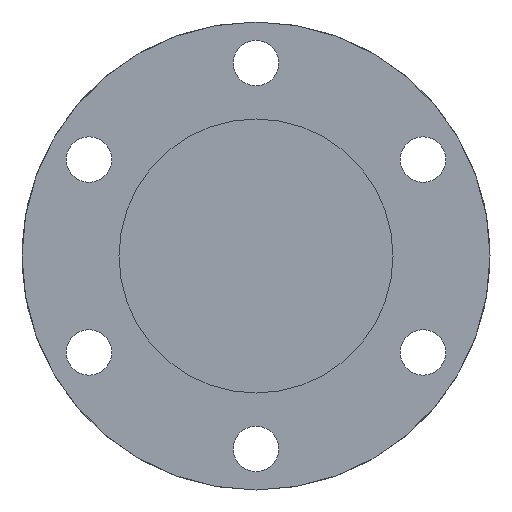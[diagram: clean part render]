
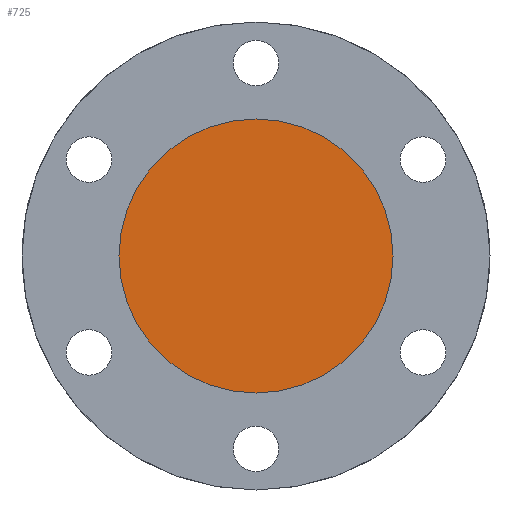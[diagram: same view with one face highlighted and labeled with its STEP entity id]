
A CAD part, front view. The second image highlights one B-rep face of the part: STEP entity #725.
In plain terms, the highlighted planar face has unit normal (0, -1, 0).
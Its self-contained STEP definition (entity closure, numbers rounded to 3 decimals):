
#3 = CARTESIAN_POINT ( 'NONE',  ( 0., 5.4, -23.7 ) ) ;
#218 = CIRCLE ( 'NONE', #308, 23.7 ) ;
#237 = DIRECTION ( 'NONE',  ( 0., 0., 1. ) ) ;
#308 = AXIS2_PLACEMENT_3D ( 'NONE', #1002, #1245, #237 ) ;
#314 = AXIS2_PLACEMENT_3D ( 'NONE', #648, #535, #755 ) ;
#372 = CIRCLE ( 'NONE', #314, 23.7 ) ;
#374 = DIRECTION ( 'NONE',  ( 0., 1., 0. ) ) ;
#377 = CARTESIAN_POINT ( 'NONE',  ( 0., 5.4, 23.7 ) ) ;
#399 = ORIENTED_EDGE ( 'NONE', *, *, #969, .T. ) ;
#495 = PLANE ( 'NONE',  #1316 ) ;
#535 = DIRECTION ( 'NONE',  ( 0., -1., 0. ) ) ;
#606 = DIRECTION ( 'NONE',  ( 0., 0., 1. ) ) ;
#648 = CARTESIAN_POINT ( 'NONE',  ( 0., 5.4, 0. ) ) ;
#725 = ADVANCED_FACE ( 'NONE', ( #1367 ), #495, .F. ) ;
#755 = DIRECTION ( 'NONE',  ( 0., 0., 1. ) ) ;
#797 = ORIENTED_EDGE ( 'NONE', *, *, #1192, .T. ) ;
#930 = CARTESIAN_POINT ( 'NONE',  ( -24.2, 5.4, 0. ) ) ;
#969 = EDGE_CURVE ( 'NONE', #1034, #1044, #218, .T. ) ;
#1002 = CARTESIAN_POINT ( 'NONE',  ( 0., 5.4, 0. ) ) ;
#1022 = EDGE_LOOP ( 'NONE', ( #797, #399 ) ) ;
#1034 = VERTEX_POINT ( 'NONE', #3 ) ;
#1044 = VERTEX_POINT ( 'NONE', #377 ) ;
#1192 = EDGE_CURVE ( 'NONE', #1044, #1034, #372, .T. ) ;
#1245 = DIRECTION ( 'NONE',  ( 0., -1., 0. ) ) ;
#1316 = AXIS2_PLACEMENT_3D ( 'NONE', #930, #374, #606 ) ;
#1367 = FACE_OUTER_BOUND ( 'NONE', #1022, .T. ) ;
